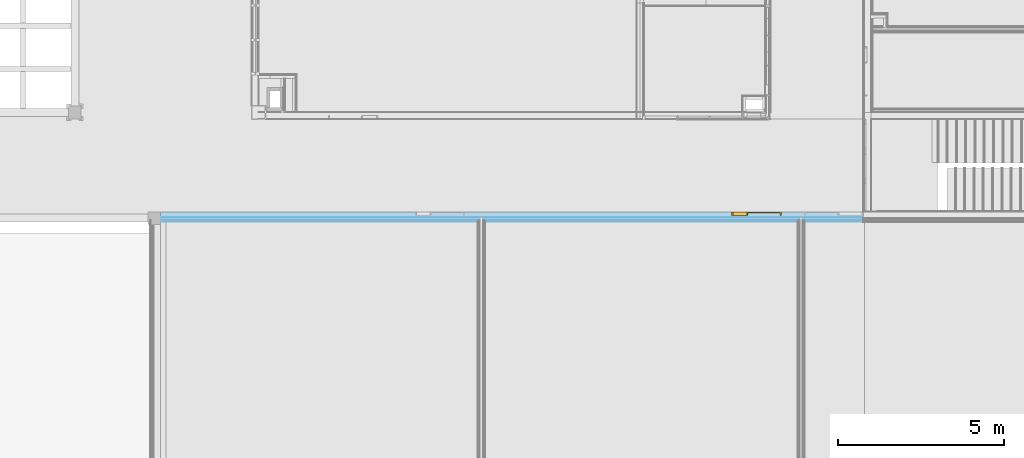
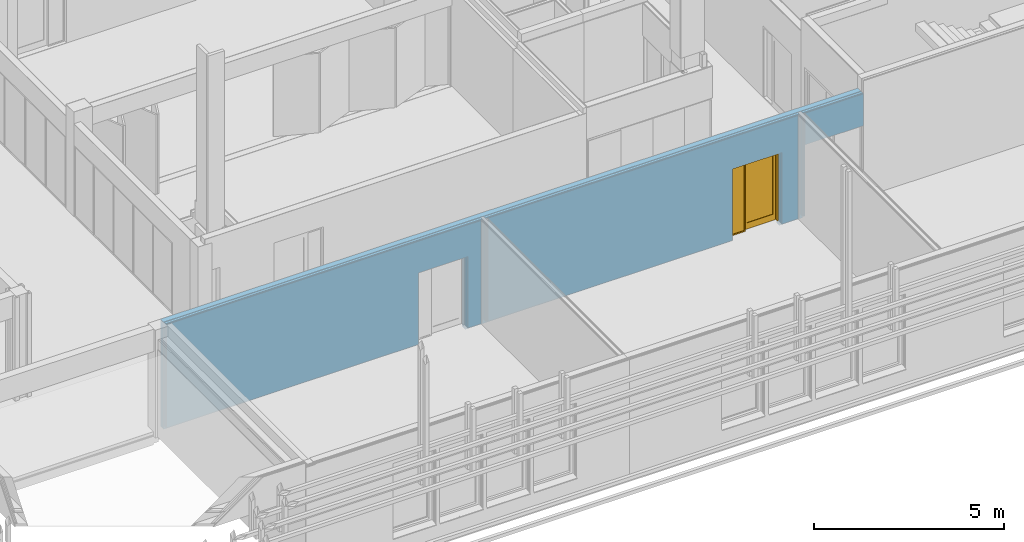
# One storey, part 64 of 139: 1 door, 3 openings, 1 element without a shape of its own, plus 7 elements that do not belong to this part.
"""IFC2X3 building model written with IfcOpenShell, lengths in millimetres."""

from ifc_helpers import new_model, entity, si_unit, converted_unit, derived_unit, money_unit, direction, frame, origin_with_axes, place, context, subcontext, project, spatial, open_shell, faceted_brep, surface_model, source, transform, mapped, material, type_object, element, fill, aggregate, save


model = new_model("IFC2X3")

# Units and contexts
model_context = context("Model", 3, precision=0.01, world=origin_with_axes(), true_north=direction((0.0, 1.0)))
body_context = subcontext(model_context, "Body", "Model", "MODEL_VIEW")
ifc_project = project(units=[si_unit("LENGTHUNIT", "METRE", prefix="MILLI"), si_unit("AREAUNIT", "SQUARE_METRE"), si_unit("VOLUMEUNIT", "CUBIC_METRE"), converted_unit("PLANEANGLEUNIT", "DEGREE", entity("IfcPlaneAngleMeasure", 0.0174532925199), si_unit("PLANEANGLEUNIT", "RADIAN"), dimensions=[0, 0, 0, 0, 0, 0, 0]), money_unit("EUR"), converted_unit("TIMEUNIT", "Year", entity("IfcTimeMeasure", 31556926.0), si_unit("TIMEUNIT", "SECOND"), dimensions=[0, 0, 1, 0, 0, 0, 0]), si_unit("MASSUNIT", "GRAM", prefix="KILO"), si_unit("THERMODYNAMICTEMPERATUREUNIT", "DEGREE_CELSIUS"), si_unit("LUMINOUSINTENSITYUNIT", "LUMEN"), si_unit("ENERGYUNIT", "JOULE", prefix="MEGA"), derived_unit("THERMALCONDUCTANCEUNIT", [(si_unit("POWERUNIT", "WATT"), 1), (si_unit("LENGTHUNIT", "METRE"), -1), (si_unit("THERMODYNAMICTEMPERATUREUNIT", "KELVIN"), -1)]), derived_unit("SPECIFICHEATCAPACITYUNIT", [(si_unit("ENERGYUNIT", "JOULE"), 1), (si_unit("MASSUNIT", "GRAM", prefix="KILO"), -1), (si_unit("THERMODYNAMICTEMPERATUREUNIT", "KELVIN"), -1)]), derived_unit("MASSDENSITYUNIT", [(si_unit("MASSUNIT", "GRAM", prefix="KILO"), 1), (si_unit("VOLUMEUNIT", "CUBIC_METRE"), -1)])], contexts=[model_context])

# Site, building, storey
site_placement = place(None, origin_with_axes())
site = spatial("IfcSite", under=ifc_project, at=site_placement, Name="Kolde pst 67a", CompositionType="ELEMENT")
building_placement = place(site_placement, origin_with_axes())
building = spatial("IfcBuilding", under=site, at=building_placement, Name="Riigigümnaasium", CompositionType="ELEMENT")
storey_placement = place(building_placement, frame((0.0, 0.0, 4600.0), z_axis=(0.0, 0.0, 1.0), x_axis=(1.0, 0.0, 0.0)))
storey = spatial("IfcBuildingStorey", under=building, at=storey_placement, Name="2. korrus", CompositionType="ELEMENT", Elevation=4600.0)

# Door
door_style = type_object("IfcDoorStyle", Name="Door with Sidelight on Side 2 25", ConstructionType="NOTDEFINED", OperationType="SINGLE_SWING_RIGHT", ParameterTakesPrecedence=False, Sizeable=False)
shared_shape = source(origin_with_axes(), body_context, "Body", "SurfaceModel", [
    faceted_brep([(-750.0, 0.0, 0.0), (-710.0, 0.0, 0.0), (-710.0, -115.0, 0.0), (-750.0, -115.0, 0.0), (-750.0, 0.0, 2260.0), (-710.0, 0.0, 2260.0), (-710.0, 0.0, 40.0), (-710.0, -115.0, 40.0), (-710.0, -115.0, 2260.0), (-750.0, -115.0, 2260.0)], [[[0, 1, 2, 3]], [[0, 4, 5, 6, 1]], [[1, 6, 7, 2]], [[3, 2, 7, 8, 9]], [[4, 0, 3, 9]], [[5, 4, 9, 8]], [[6, 5, 8, 7]]]),
    faceted_brep([(-250.0, -40.0, 0.0), (-250.0, -40.0, 2260.0), (-250.0, -115.0, 2260.0), (-250.0, -115.0, 0.0), (-262.0, -40.0, 2260.0), (-262.0, -40.0, 0.0), (-262.0, 0.0, 2260.0), (-290.0, 0.0, 2260.0), (-290.0, -115.0, 2260.0), (-290.0, -115.0, 0.0), (-290.0, -115.0, 40.0), (-290.0, 0.0, 0.0), (-262.0, 0.0, 0.0), (-290.0, 0.0, 40.0)], [[[0, 1, 2, 3]], [[4, 1, 0, 5]], [[4, 6, 7, 8, 2, 1]], [[9, 3, 2, 8, 10]], [[5, 0, 3, 9, 11, 12]], [[6, 4, 5, 12]], [[6, 12, 11, 13, 7]], [[13, 10, 8, 7]], [[11, 9, 10, 13]]]),
    faceted_brep([(-710.0, 0.0, 40.0), (-710.0, 0.0, 0.0), (-710.0, -115.0, 0.0), (-710.0, -115.0, 40.0), (-290.0, 0.0, 40.0), (-290.0, 0.0, 0.0), (-290.0, -115.0, 0.0), (-290.0, -115.0, 40.0)], [[[0, 1, 2, 3]], [[0, 4, 5, 1]], [[1, 5, 6, 2]], [[3, 2, 6, 7]], [[4, 0, 3, 7]], [[5, 4, 7, 6]]]),
    faceted_brep([(722.0, -40.0, 2260.0), (710.0, -40.0, 2260.0), (710.0, -115.0, 2260.0), (750.0, -115.0, 2260.0), (750.0, 0.0, 2260.0), (722.0, 0.0, 2260.0), (722.0, -40.0, 0.0), (710.0, -40.0, 0.0), (710.0, -115.0, 0.0), (750.0, -115.0, 0.0), (750.0, 0.0, 0.0), (722.0, 0.0, 0.0)], [[[0, 1, 2, 3, 4, 5]], [[1, 0, 6, 7]], [[1, 7, 8, 2]], [[3, 2, 8, 9]], [[4, 3, 9, 10]], [[11, 5, 4, 10]], [[0, 5, 11, 6]], [[6, 11, 10, 9, 8, 7]]]),
    faceted_brep([(-262.0, 0.0, 2272.0), (-262.0, 0.0, 2260.0), (-290.0, 0.0, 2260.0), (-710.0, 0.0, 2260.0), (-750.0, 0.0, 2260.0), (-750.0, 0.0, 2300.0), (750.0, 0.0, 2300.0), (750.0, 0.0, 2260.0), (722.0, 0.0, 2260.0), (722.0, 0.0, 2272.0), (-262.0, -40.0, 2272.0), (-262.0, -40.0, 2260.0), (710.0, -40.0, 2260.0), (710.0, -115.0, 2260.0), (-250.0, -115.0, 2260.0), (-290.0, -115.0, 2260.0), (-710.0, -115.0, 2260.0), (-750.0, -115.0, 2260.0), (-750.0, -115.0, 2300.0), (750.0, -115.0, 2300.0), (750.0, -115.0, 2260.0), (722.0, -40.0, 2260.0), (722.0, -40.0, 2272.0)], [[[0, 1, 2, 3, 4, 5, 6, 7, 8, 9]], [[1, 0, 10, 11]], [[11, 12, 13, 14, 15, 2, 1]], [[2, 15, 16, 3]], [[3, 16, 17, 4]], [[4, 17, 18, 5]], [[5, 18, 19, 6]], [[6, 19, 20, 7]], [[21, 8, 7, 20, 13, 12]], [[9, 8, 21, 22]], [[0, 9, 22, 10]], [[21, 12, 11, 10, 22]], [[13, 20, 19, 18, 17, 16, 15, 14]]]),
    faceted_brep([(722.0, 0.0, 200.0), (722.0, -40.0, 200.0), (622.0, -40.0, 200.0), (622.0, 0.0, 200.0), (722.0, 0.0, 2172.0), (722.0, -40.0, 2172.0), (622.0, -40.0, 2172.0), (622.0, 0.0, 2172.0)], [[[0, 1, 2, 3]], [[4, 5, 1, 0]], [[1, 5, 6, 2]], [[3, 2, 6, 7]], [[0, 3, 7, 4]], [[7, 6, 5, 4]]]),
    faceted_brep([(-262.0, 0.0, 200.0), (-262.0, -40.0, 200.0), (-262.0, -40.0, 2172.0), (-262.0, 0.0, 2172.0), (-162.0, 0.0, 200.0), (-162.0, -40.0, 200.0), (-162.0, -40.0, 2172.0), (-162.0, 0.0, 2172.0)], [[[0, 1, 2, 3]], [[4, 5, 1, 0]], [[1, 5, 6, 2]], [[3, 2, 6, 7]], [[0, 3, 7, 4]], [[7, 6, 5, 4]]]),
    faceted_brep([(722.0, 0.0, 0.0), (722.0, -40.0, 0.0), (-262.0, -40.0, 0.0), (-262.0, 0.0, 0.0), (722.0, 0.0, 200.0), (722.0, -40.0, 200.0), (622.0, -40.0, 200.0), (-162.0, -40.0, 200.0), (-262.0, -40.0, 200.0), (-262.0, 0.0, 200.0), (-162.0, 0.0, 200.0), (622.0, 0.0, 200.0)], [[[0, 1, 2, 3]], [[4, 5, 1, 0]], [[1, 5, 6, 7, 8, 2]], [[3, 2, 8, 9]], [[0, 3, 9, 10, 11, 4]], [[11, 6, 5, 4]], [[10, 7, 6, 11]], [[9, 8, 7, 10]]]),
    faceted_brep([(722.0, 0.0, 2272.0), (722.0, -40.0, 2272.0), (722.0, -40.0, 2172.0), (722.0, 0.0, 2172.0), (-262.0, 0.0, 2272.0), (-262.0, -40.0, 2272.0), (-262.0, -40.0, 2172.0), (-162.0, -40.0, 2172.0), (622.0, -40.0, 2172.0), (622.0, 0.0, 2172.0), (-162.0, 0.0, 2172.0), (-262.0, 0.0, 2172.0)], [[[0, 1, 2, 3]], [[4, 5, 1, 0]], [[1, 5, 6, 7, 8, 2]], [[3, 2, 8, 9]], [[0, 3, 9, 10, 11, 4]], [[11, 6, 5, 4]], [[10, 7, 6, 11]], [[9, 8, 7, 10]]]),
    surface_model("IfcShellBasedSurfaceModel", [(622.0, -14.0, 200.0), (-162.0, -14.0, 200.0), (-162.0, -14.0, 2172.0), (622.0, -14.0, 2172.0)], [open_shell([[[0, 1, 2, 3]]])]),
    surface_model("IfcShellBasedSurfaceModel", [(622.0, -26.0, 200.0), (622.0, -26.0, 2172.0), (-162.0, -26.0, 2172.0), (-162.0, -26.0, 200.0)], [open_shell([[[0, 1, 2, 3]]])]),
    surface_model("IfcShellBasedSurfaceModel", [(-710.0, -91.0, 40.0), (-710.0, -91.0, 2260.0), (-290.0, -91.0, 2260.0), (-290.0, -91.0, 40.0)], [open_shell([[[0, 1, 2, 3]]])]),
    surface_model("IfcShellBasedSurfaceModel", [(-710.0, -103.0, 40.0), (-290.0, -103.0, 40.0), (-290.0, -103.0, 2260.0), (-710.0, -103.0, 2260.0)], [open_shell([[[0, 1, 2, 3]]])]),
])
wall_placement = place(storey_placement, frame((55369.9826662, 7900.0, -130.0), z_axis=(0.0, 0.0, 1.0), x_axis=(1.0, 0.0, 0.0)))
opening_3_placement = place(wall_placement, frame((17990.0166618, 0.0, 130.0), z_axis=(0.0, 0.0, 1.0), x_axis=(1.0, 0.0, 0.0)))
door_placement = place(opening_3_placement, frame((-750.0, 0.0, 0.0), z_axis=(0.0, 0.0, 1.0), x_axis=(1.0, 0.0, 0.0)))
door = element("IfcDoor", 1, at=door_placement, inside=storey, type_object=door_style, Name="Siseuks", ObjectType="DOOR", OverallHeight=2300.0, OverallWidth=1500.0, context=body_context, shape_type="MappedRepresentation", body=[
    mapped(shared_shape, transform((750.0, 0.0, 0.0))),
])

# Wall, openings
wall_type = type_object("IfcWallType", Name="SS-CLT-16/1_vill75+krohv 52 dB 300", PredefinedType="NOTDEFINED")
wall = element("IfcWall", 2, at=wall_placement, inside=storey, type_object=wall_type, Name="Sisesein")
opening_1_placement = place(wall_placement, frame((8430.01666176, 0.0, 130.0), z_axis=(0.0, 0.0, 1.0), x_axis=(1.0, 0.0, 0.0)))
element("IfcOpeningElement", 3, at=opening_1_placement, cuts=wall, Name="Siseuks", context=body_context, shape_type="Brep", body=[
    faceted_brep([(750.0, -300.0, 2300.0), (750.0, -300.0, 0.0), (750.0, 600.0, 0.0), (750.0, 600.0, 2300.0), (-750.0, -300.0, 2300.0), (-750.0, -300.0, 0.0), (-750.0, 600.0, 0.0), (-750.0, 600.0, 2300.0)], [[[0, 1, 2, 3]], [[0, 4, 5, 1]], [[1, 5, 6, 2]], [[3, 2, 6, 7]], [[4, 0, 3, 7]], [[5, 4, 7, 6]]]),
])
opening_2_placement = place(wall_placement, frame((20330.020805, 0.0, 130.0), z_axis=(0.0, 0.0, 1.0), x_axis=(1.0, 0.0, 0.0)))
element("IfcOpeningElement", 4, at=opening_2_placement, cuts=wall, Name="Siseuks", context=body_context, shape_type="Brep", body=[
    faceted_brep([(-890.0, 600.0, 2300.0), (-890.0, 600.0, 0.0), (-890.0, -300.0, 0.0), (-890.0, -300.0, 2300.0), (890.0, 600.0, 2300.0), (890.0, 600.0, 0.0), (890.0, -300.0, 0.0), (890.0, -300.0, 2300.0)], [[[0, 1, 2, 3]], [[0, 4, 5, 1]], [[1, 5, 6, 2]], [[3, 2, 6, 7]], [[4, 0, 3, 7]], [[5, 4, 7, 6]]]),
])
opening_3 = element("IfcOpeningElement", 5, at=opening_3_placement, cuts=wall, Name="Siseuks", context=body_context, shape_type="Brep", body=[
    faceted_brep([(750.0, -300.0, 2300.0), (750.0, -300.0, 0.0), (750.0, 600.0, 0.0), (750.0, 600.0, 2300.0), (-750.0, -300.0, 2300.0), (-750.0, -300.0, 0.0), (-750.0, 600.0, 0.0), (-750.0, 600.0, 2300.0)], [[[0, 1, 2, 3]], [[0, 4, 5, 1]], [[1, 5, 6, 2]], [[3, 2, 6, 7]], [[4, 0, 3, 7]], [[5, 4, 7, 6]]]),
])

fill(opening_3, door)

# Building element part
ifc_material_1 = material(Name="_KANDETARIND - CLT ristkihtliimpuit vastavalt EK osale, CLT paigaldusvuugid teibitakse ROTHOBLAAS teibiga")
building_element_part_1_placement = place(wall_placement, origin_with_axes())
building_element_part_1 = element("IfcBuildingElementPart", 6, at=building_element_part_1_placement, material=ifc_material_1, Name="_KANDETARIND - CLT ristkihtliimpuit vastavalt EK osale, CLT paigaldusvuugid teibitakse ROTHOBLAAS teibiga", context=body_context, shape_type="Brep", body=[
    faceted_brep([(17240.0166618, 0.0, 2430.0), (17240.0166618, 0.0, 130.0), (17240.0166618, 0.0, 0.0), (9180.01666176, 0.0, 0.0), (9180.01666176, 0.0, 130.0), (9180.01666176, 0.0, 2430.0), (7680.01666176, 0.0, 2430.0), (7680.01666176, 0.0, 130.0), (7680.01666176, 0.0, 0.0), (0.0, 0.0, 0.0), (0.0, 0.0, 3450.0), (21220.0193969, 0.0, 3450.0), (21220.020805, 0.0, 2430.0), (19440.020805, 0.0, 2430.0), (19440.020805, 0.0, 130.0), (19440.020805, 0.0, 0.0), (18740.0166618, 0.0, 0.0), (18740.0166618, 0.0, 130.0), (18740.0166618, 0.0, 2430.0), (17240.0166618, -160.0, 2430.0), (17240.0166618, -160.0, 130.0), (17240.0166618, -160.0, 0.0), (9180.01666176, -160.0, 0.0), (9180.01666176, -160.0, 130.0), (9180.01666176, -160.0, 2430.0), (7680.01666176, -160.0, 2430.0), (7680.01666176, -160.0, 130.0), (7680.01666176, -160.0, 0.0), (0.0, -160.0, 0.0), (-0.00089815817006, -160.0, 3450.0), (21220.0193969, -160.0, 3450.0), (21220.020805, -160.0, 2430.0), (19440.020805, -160.0, 2430.0), (19440.020805, -160.0, 130.0), (19440.020805, -160.0, 0.0), (18740.0166618, -160.0, 0.0), (18740.0166618, -160.0, 130.0), (18740.0166618, -160.0, 2430.0)], [[[0, 1, 2, 3, 4, 5, 6, 7, 8, 9, 10, 11, 12, 13, 14, 15, 16, 17, 18]], [[1, 0, 19, 20]], [[1, 20, 21, 2]], [[22, 3, 2, 21]], [[3, 22, 23, 4]], [[23, 24, 5, 4]], [[24, 25, 6, 5]], [[25, 26, 7, 6]], [[27, 8, 7, 26]], [[27, 28, 9, 8]], [[9, 28, 29, 10]], [[10, 29, 30, 11]], [[12, 11, 30, 31]], [[12, 31, 32, 13]], [[13, 32, 33, 14]], [[33, 34, 15, 14]], [[16, 15, 34, 35]], [[36, 17, 16, 35]], [[18, 17, 36, 37]], [[0, 18, 37, 19]], [[37, 36, 35, 34, 33, 32, 31, 30, 29, 28, 27, 26, 25, 24, 23, 22, 21, 20, 19]]]),
])

ifc_material_2 = material(Name="_ÕHKVAHE")
building_element_part_2_placement = place(wall_placement, origin_with_axes())
building_element_part_2 = element("IfcBuildingElementPart", 7, at=building_element_part_2_placement, material=ifc_material_2, Name="_ÕHKVAHE", context=body_context, shape_type="Brep", body=[
    faceted_brep([(21220.020805, -175.0, 2430.0), (21220.020805, -160.0, 2430.0), (21220.0193969, -160.0, 3450.0), (21220.0193969, -175.0, 3450.0), (19440.020805, -160.0, 2430.0), (19440.020805, -175.0, 2430.0), (19440.020805, -160.0, 130.0), (19440.020805, -160.0, 127.0), (19390.0166618, -160.0, 127.0), (19390.0166618, -160.0, 3450.0), (19390.0166618, -175.0, 3450.0), (19390.0166618, -175.0, 127.0), (19440.020805, -175.0, 127.0), (19440.020805, -175.0, 130.0)], [[[0, 1, 2, 3]], [[4, 1, 0, 5]], [[4, 6, 7, 8, 9, 2, 1]], [[2, 9, 10, 3]], [[5, 0, 3, 10, 11, 12, 13]], [[6, 4, 5, 13]], [[6, 13, 12, 7]], [[12, 11, 8, 7]], [[9, 8, 11, 10]]]),
    faceted_brep([(17240.0166618, -160.0, 2430.0), (17240.0166618, -160.0, 130.0), (17240.0166618, -160.0, 127.0), (9740.01666176, -160.0, 127.0), (9740.01666176, -160.0, 3450.0), (19290.0166618, -160.0, 3450.0), (19290.0166618, -160.0, 127.0), (18740.0166618, -160.0, 127.0), (18740.0166618, -160.0, 130.0), (18740.0166618, -160.0, 2430.0), (17240.0166618, -175.0, 2430.0), (17240.0166618, -175.0, 130.0), (17240.0166618, -175.0, 127.0), (9740.01666176, -175.0, 127.0), (9740.01666176, -175.0, 3450.0), (19290.0166618, -175.0, 3450.0), (19290.0166618, -175.0, 127.0), (18740.0166618, -175.0, 127.0), (18740.0166618, -175.0, 130.0), (18740.0166618, -175.0, 2430.0)], [[[0, 1, 2, 3, 4, 5, 6, 7, 8, 9]], [[1, 0, 10, 11]], [[1, 11, 12, 2]], [[12, 13, 3, 2]], [[4, 3, 13, 14]], [[5, 4, 14, 15]], [[15, 16, 6, 5]], [[7, 6, 16, 17]], [[18, 8, 7, 17]], [[9, 8, 18, 19]], [[0, 9, 19, 10]], [[19, 18, 17, 16, 15, 14, 13, 12, 11, 10]]]),
    faceted_brep([(7680.01666176, -160.0, 2430.0), (7680.01666176, -160.0, 130.0), (7680.01666176, -160.0, 127.0), (0.0, -160.0, 127.0), (-0.00089815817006, -160.0, 3450.0), (9640.01666176, -160.0, 3450.0), (9640.01666176, -160.0, 127.0), (9180.01666176, -160.0, 127.0), (9180.01666176, -160.0, 130.0), (9180.01666176, -160.0, 2430.0), (7680.01666176, -175.0, 2430.0), (7680.01666176, -175.0, 130.0), (7680.01666176, -175.0, 127.0), (0.0, -175.0, 127.0), (-0.00089815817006, -175.0, 3450.0), (9640.01666176, -175.0, 3450.0), (9640.01666176, -175.0, 127.0), (9180.01666176, -175.0, 127.0), (9180.01666176, -175.0, 130.0), (9180.01666176, -175.0, 2430.0)], [[[0, 1, 2, 3, 4, 5, 6, 7, 8, 9]], [[1, 0, 10, 11]], [[1, 11, 12, 2]], [[12, 13, 3, 2]], [[4, 3, 13, 14]], [[5, 4, 14, 15]], [[15, 16, 6, 5]], [[7, 6, 16, 17]], [[18, 8, 7, 17]], [[9, 8, 18, 19]], [[0, 9, 19, 10]], [[19, 18, 17, 16, 15, 14, 13, 12, 11, 10]]]),
])

ifc_material_3 = material(Name="_KARKASS - metallkarkass CW 75/50/06 ja UW 75/40/06, samm 600, vahel mineraalvill, helineeldetegur αw = 1.0,  ISOVER ACOUSTIC 75mm või samaväärne")
building_element_part_3_placement = place(wall_placement, origin_with_axes())
building_element_part_3 = element("IfcBuildingElementPart", 8, at=building_element_part_3_placement, material=ifc_material_3, Name="_KARKASS - metallkarkass CW 75/50/06 ja UW 75/40/06, samm 600, vahel mineraalvill, helineeldetegur αw = 1.0,  ISOVER ACOUSTIC 75mm või samaväärne", context=body_context, shape_type="Brep", body=[
    faceted_brep([(21220.020805, -250.0, 2430.0), (21220.020805, -175.0, 2430.0), (21220.0193969, -175.0, 3450.0), (21220.0193969, -250.0, 3450.0), (19440.020805, -175.0, 2430.0), (19440.020805, -250.0, 2430.0), (19440.020805, -175.0, 130.0), (19440.020805, -175.0, 127.0), (19390.0166618, -175.0, 127.0), (19390.0166618, -175.0, 3450.0), (19390.0166618, -250.0, 3450.0), (19390.0166618, -250.0, 127.0), (19440.020805, -250.0, 127.0), (19440.020805, -250.0, 130.0)], [[[0, 1, 2, 3]], [[4, 1, 0, 5]], [[4, 6, 7, 8, 9, 2, 1]], [[2, 9, 10, 3]], [[5, 0, 3, 10, 11, 12, 13]], [[6, 4, 5, 13]], [[6, 13, 12, 7]], [[12, 11, 8, 7]], [[9, 8, 11, 10]]]),
    faceted_brep([(17240.0166618, -175.0, 2430.0), (17240.0166618, -175.0, 130.0), (17240.0166618, -175.0, 127.0), (9740.01666176, -175.0, 127.0), (9740.01666176, -175.0, 3450.0), (19290.0166618, -175.0, 3450.0), (19290.0166618, -175.0, 127.0), (18740.0166618, -175.0, 127.0), (18740.0166618, -175.0, 130.0), (18740.0166618, -175.0, 2430.0), (17240.0166618, -250.0, 2430.0), (17240.0166618, -250.0, 130.0), (17240.0166618, -250.0, 127.0), (9740.01666176, -250.0, 127.0), (9740.01666176, -250.0, 3450.0), (19290.0166618, -250.0, 3450.0), (19290.0166618, -250.0, 127.0), (18740.0166618, -250.0, 127.0), (18740.0166618, -250.0, 130.0), (18740.0166618, -250.0, 2430.0)], [[[0, 1, 2, 3, 4, 5, 6, 7, 8, 9]], [[1, 0, 10, 11]], [[1, 11, 12, 2]], [[12, 13, 3, 2]], [[4, 3, 13, 14]], [[5, 4, 14, 15]], [[15, 16, 6, 5]], [[7, 6, 16, 17]], [[18, 8, 7, 17]], [[9, 8, 18, 19]], [[0, 9, 19, 10]], [[19, 18, 17, 16, 15, 14, 13, 12, 11, 10]]]),
    faceted_brep([(7680.01666176, -175.0, 2430.0), (7680.01666176, -175.0, 130.0), (7680.01666176, -175.0, 127.0), (0.0, -175.0, 127.0), (-0.00089815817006, -175.0, 3450.0), (9640.01666176, -175.0, 3450.0), (9640.01666176, -175.0, 127.0), (9180.01666176, -175.0, 127.0), (9180.01666176, -175.0, 130.0), (9180.01666176, -175.0, 2430.0), (7680.01666176, -250.0, 2430.0), (7680.01666176, -250.0, 130.0), (7680.01666176, -250.0, 127.0), (0.0, -250.0, 127.0), (-0.00089815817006, -250.0, 3450.0), (9640.01666176, -250.0, 3450.0), (9640.01666176, -250.0, 127.0), (9180.01666176, -250.0, 127.0), (9180.01666176, -250.0, 130.0), (9180.01666176, -250.0, 2430.0)], [[[0, 1, 2, 3, 4, 5, 6, 7, 8, 9]], [[1, 0, 10, 11]], [[1, 11, 12, 2]], [[12, 13, 3, 2]], [[4, 3, 13, 14]], [[5, 4, 14, 15]], [[15, 16, 6, 5]], [[7, 6, 16, 17]], [[18, 8, 7, 17]], [[9, 8, 18, 19]], [[0, 9, 19, 10]], [[19, 18, 17, 16, 15, 14, 13, 12, 11, 10]]]),
])

ifc_material_4 = material(Name="_PLAATMATERJAL - OSB3 plaat")
building_element_part_4_placement = place(wall_placement, origin_with_axes())
building_element_part_4 = element("IfcBuildingElementPart", 9, at=building_element_part_4_placement, material=ifc_material_4, Name="_PLAATMATERJAL - OSB3 plaat", context=body_context, shape_type="Brep", body=[
    faceted_brep([(21220.020805, -260.0, 2430.0), (21220.020805, -250.0, 2430.0), (21220.0193969, -250.0, 3450.0), (21220.0193969, -260.0, 3450.0), (19440.020805, -250.0, 2430.0), (19440.020805, -260.0, 2430.0), (19440.020805, -250.0, 130.0), (19440.020805, -250.0, 127.0), (19390.0166618, -250.0, 127.0), (19390.0166618, -250.0, 3450.0), (19390.0166618, -260.0, 3450.0), (19390.0166618, -260.0, 127.0), (19440.020805, -260.0, 127.0), (19440.020805, -260.0, 130.0)], [[[0, 1, 2, 3]], [[4, 1, 0, 5]], [[4, 6, 7, 8, 9, 2, 1]], [[2, 9, 10, 3]], [[5, 0, 3, 10, 11, 12, 13]], [[6, 4, 5, 13]], [[6, 13, 12, 7]], [[12, 11, 8, 7]], [[9, 8, 11, 10]]]),
    faceted_brep([(17240.0166618, -250.0, 2430.0), (17240.0166618, -250.0, 130.0), (17240.0166618, -250.0, 127.0), (9740.01666176, -250.0, 127.0), (9740.01666176, -250.0, 3450.0), (19290.0166618, -250.0, 3450.0), (19290.0166618, -250.0, 127.0), (18740.0166618, -250.0, 127.0), (18740.0166618, -250.0, 130.0), (18740.0166618, -250.0, 2430.0), (17240.0166618, -260.0, 2430.0), (17240.0166618, -260.0, 130.0), (17240.0166618, -260.0, 127.0), (9740.01666176, -260.0, 127.0), (9740.01666176, -260.0, 3450.0), (19290.0166618, -260.0, 3450.0), (19290.0166618, -260.0, 127.0), (18740.0166618, -260.0, 127.0), (18740.0166618, -260.0, 130.0), (18740.0166618, -260.0, 2430.0)], [[[0, 1, 2, 3, 4, 5, 6, 7, 8, 9]], [[1, 0, 10, 11]], [[1, 11, 12, 2]], [[12, 13, 3, 2]], [[4, 3, 13, 14]], [[5, 4, 14, 15]], [[15, 16, 6, 5]], [[7, 6, 16, 17]], [[18, 8, 7, 17]], [[9, 8, 18, 19]], [[0, 9, 19, 10]], [[19, 18, 17, 16, 15, 14, 13, 12, 11, 10]]]),
    faceted_brep([(7680.01666176, -250.0, 2430.0), (7680.01666176, -250.0, 130.0), (7680.01666176, -250.0, 127.0), (0.0, -250.0, 127.0), (-0.00089815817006, -250.0, 3450.0), (9640.01666176, -250.0, 3450.0), (9640.01666176, -250.0, 127.0), (9180.01666176, -250.0, 127.0), (9180.01666176, -250.0, 130.0), (9180.01666176, -250.0, 2430.0), (7680.01666176, -260.0, 2430.0), (7680.01666176, -260.0, 130.0), (7680.01666176, -260.0, 127.0), (0.0, -260.0, 127.0), (-0.00089815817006, -260.0, 3450.0), (9640.01666176, -260.0, 3450.0), (9640.01666176, -260.0, 127.0), (9180.01666176, -260.0, 127.0), (9180.01666176, -260.0, 130.0), (9180.01666176, -260.0, 2430.0)], [[[0, 1, 2, 3, 4, 5, 6, 7, 8, 9]], [[1, 0, 10, 11]], [[1, 11, 12, 2]], [[12, 13, 3, 2]], [[4, 3, 13, 14]], [[5, 4, 14, 15]], [[15, 16, 6, 5]], [[7, 6, 16, 17]], [[18, 8, 7, 17]], [[9, 8, 18, 19]], [[0, 9, 19, 10]], [[19, 18, 17, 16, 15, 14, 13, 12, 11, 10]]]),
])

ifc_material_5 = material(Name="_PLAATMATERJAL - tuletõkkekipsplaat, Knauf Red GKF või samaväärne")
building_element_part_5_placement = place(wall_placement, origin_with_axes())
building_element_part_5 = element("IfcBuildingElementPart", 10, at=building_element_part_5_placement, material=ifc_material_5, Name="_PLAATMATERJAL - tuletõkkekipsplaat, Knauf Red GKF või samaväärne", context=body_context, shape_type="Brep", body=[
    faceted_brep([(21220.020805, -275.0, 2430.0), (21220.020805, -260.0, 2430.0), (21220.0193969, -260.0, 3450.0), (21220.0193969, -275.0, 3450.0), (19440.020805, -260.0, 2430.0), (19440.020805, -275.0, 2430.0), (19440.020805, -260.0, 130.0), (19440.020805, -260.0, 127.0), (19390.0166618, -260.0, 127.0), (19390.0166618, -260.0, 3450.0), (19390.0166618, -275.0, 3450.0), (19390.0166618, -275.0, 127.0), (19440.020805, -275.0, 127.0), (19440.020805, -275.0, 130.0)], [[[0, 1, 2, 3]], [[4, 1, 0, 5]], [[4, 6, 7, 8, 9, 2, 1]], [[2, 9, 10, 3]], [[5, 0, 3, 10, 11, 12, 13]], [[6, 4, 5, 13]], [[6, 13, 12, 7]], [[12, 11, 8, 7]], [[9, 8, 11, 10]]]),
    faceted_brep([(17240.0166618, -260.0, 2430.0), (17240.0166618, -260.0, 130.0), (17240.0166618, -260.0, 127.0), (9740.01666176, -260.0, 127.0), (9740.01666176, -260.0, 3450.0), (19290.0166618, -260.0, 3450.0), (19290.0166618, -260.0, 127.0), (18740.0166618, -260.0, 127.0), (18740.0166618, -260.0, 130.0), (18740.0166618, -260.0, 2430.0), (17240.0166618, -275.0, 2430.0), (17240.0166618, -275.0, 130.0), (17240.0166618, -275.0, 127.0), (9740.01666176, -275.0, 127.0), (9740.01666176, -275.0, 3450.0), (19290.0166618, -275.0, 3450.0), (19290.0166618, -275.0, 127.0), (18740.0166618, -275.0, 127.0), (18740.0166618, -275.0, 130.0), (18740.0166618, -275.0, 2430.0)], [[[0, 1, 2, 3, 4, 5, 6, 7, 8, 9]], [[1, 0, 10, 11]], [[1, 11, 12, 2]], [[12, 13, 3, 2]], [[4, 3, 13, 14]], [[5, 4, 14, 15]], [[15, 16, 6, 5]], [[7, 6, 16, 17]], [[18, 8, 7, 17]], [[9, 8, 18, 19]], [[0, 9, 19, 10]], [[19, 18, 17, 16, 15, 14, 13, 12, 11, 10]]]),
    faceted_brep([(7680.01666176, -260.0, 2430.0), (7680.01666176, -260.0, 130.0), (7680.01666176, -260.0, 127.0), (0.0, -260.0, 127.0), (-0.00089815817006, -260.0, 3450.0), (9640.01666176, -260.0, 3450.0), (9640.01666176, -260.0, 127.0), (9180.01666176, -260.0, 127.0), (9180.01666176, -260.0, 130.0), (9180.01666176, -260.0, 2430.0), (7680.01666176, -275.0, 2430.0), (7680.01666176, -275.0, 130.0), (7680.01666176, -275.0, 127.0), (0.0, -275.0, 127.0), (-0.00089815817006, -275.0, 3450.0), (9640.01666176, -275.0, 3450.0), (9640.01666176, -275.0, 127.0), (9180.01666176, -275.0, 127.0), (9180.01666176, -275.0, 130.0), (9180.01666176, -275.0, 2430.0)], [[[0, 1, 2, 3, 4, 5, 6, 7, 8, 9]], [[1, 0, 10, 11]], [[1, 11, 12, 2]], [[12, 13, 3, 2]], [[4, 3, 13, 14]], [[5, 4, 14, 15]], [[15, 16, 6, 5]], [[7, 6, 16, 17]], [[18, 8, 7, 17]], [[9, 8, 18, 19]], [[0, 9, 19, 10]], [[19, 18, 17, 16, 15, 14, 13, 12, 11, 10]]]),
])

building_element_part_6_placement = place(wall_placement, origin_with_axes())
building_element_part_6 = element("IfcBuildingElementPart", 11, at=building_element_part_6_placement, material=ifc_material_5, Name="_PLAATMATERJAL - tuletõkkekipsplaat, Knauf Red GKF või samaväärne", context=body_context, shape_type="Brep", body=[
    faceted_brep([(21220.020805, -290.0, 2430.0), (21220.020805, -275.0, 2430.0), (21220.0193969, -275.0, 3450.0), (21220.0193969, -290.0, 3450.0), (19440.020805, -275.0, 2430.0), (19440.020805, -290.0, 2430.0), (19440.020805, -275.0, 130.0), (19440.020805, -275.0, 127.0), (19430.0166618, -275.0, 127.0), (19430.0166618, -275.0, 3450.0), (19430.0166618, -290.0, 3450.0), (19430.0166618, -290.0, 127.0), (19440.020805, -290.0, 127.0), (19440.020805, -290.0, 130.0)], [[[0, 1, 2, 3]], [[4, 1, 0, 5]], [[4, 6, 7, 8, 9, 2, 1]], [[2, 9, 10, 3]], [[5, 0, 3, 10, 11, 12, 13]], [[6, 4, 5, 13]], [[6, 13, 12, 7]], [[12, 11, 8, 7]], [[9, 8, 11, 10]]]),
    faceted_brep([(17240.0166618, -275.0, 2430.0), (17240.0166618, -275.0, 130.0), (17240.0166618, -275.0, 127.0), (9780.01666176, -275.0, 127.0), (9780.01666176, -275.0, 3450.0), (19250.0166618, -275.0, 3450.0), (19250.0166618, -275.0, 127.0), (18740.0166618, -275.0, 127.0), (18740.0166618, -275.0, 130.0), (18740.0166618, -275.0, 2430.0), (17240.0166618, -290.0, 2430.0), (17240.0166618, -290.0, 130.0), (17240.0166618, -290.0, 127.0), (9780.01666176, -290.0, 127.0), (9780.01666176, -290.0, 3450.0), (19250.0166618, -290.0, 3450.0), (19250.0166618, -290.0, 127.0), (18740.0166618, -290.0, 127.0), (18740.0166618, -290.0, 130.0), (18740.0166618, -290.0, 2430.0)], [[[0, 1, 2, 3, 4, 5, 6, 7, 8, 9]], [[1, 0, 10, 11]], [[1, 11, 12, 2]], [[12, 13, 3, 2]], [[4, 3, 13, 14]], [[5, 4, 14, 15]], [[15, 16, 6, 5]], [[7, 6, 16, 17]], [[18, 8, 7, 17]], [[9, 8, 18, 19]], [[0, 9, 19, 10]], [[19, 18, 17, 16, 15, 14, 13, 12, 11, 10]]]),
    faceted_brep([(7680.01666176, -275.0, 2430.0), (7680.01666176, -275.0, 130.0), (7680.01666176, -275.0, 127.0), (0.0, -275.0, 127.0), (-0.00089815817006, -275.0, 3450.0), (9600.01666176, -275.0, 3450.0), (9600.01666176, -275.0, 127.0), (9180.01666176, -275.0, 127.0), (9180.01666176, -275.0, 130.0), (9180.01666176, -275.0, 2430.0), (7680.01666176, -290.0, 2430.0), (7680.01666176, -290.0, 130.0), (7680.01666176, -290.000000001, 127.0), (-0.00133188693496, -290.000000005, 127.0), (-0.00089815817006, -290.0, 3450.0), (9600.01666176, -290.0, 3450.0), (9600.01666176, -290.0, 127.0), (9180.01666176, -290.0, 127.0), (9180.01666176, -290.0, 130.0), (9180.01666176, -290.0, 2430.0)], [[[0, 1, 2, 3, 4, 5, 6, 7, 8, 9]], [[1, 0, 10, 11]], [[1, 11, 12, 2]], [[13, 3, 2, 12]], [[4, 3, 13, 14]], [[5, 4, 14, 15]], [[15, 16, 6, 5]], [[7, 6, 16, 17]], [[18, 8, 7, 17]], [[9, 8, 18, 19]], [[0, 9, 19, 10]], [[19, 18, 17, 16, 15, 14, 13, 12, 11, 10]]]),
])

ifc_material_6 = material(Name="_VIIMISTLUSKIHT - viimistlus vastavalt SA osale")
building_element_part_7_placement = place(wall_placement, origin_with_axes())
building_element_part_7 = element("IfcBuildingElementPart", 12, at=building_element_part_7_placement, material=ifc_material_6, Name="_VIIMISTLUSKIHT - viimistlus vastavalt SA osale", context=body_context, shape_type="Brep", body=[
    faceted_brep([(21220.020805, -300.0, 2430.0), (21220.020805, -290.0, 2430.0), (21220.0193969, -290.0, 3450.0), (21220.0193969, -300.0, 3450.0), (19445.0166618, -290.0, 2430.0), (19445.0166618, -300.0, 2430.0), (19445.0166618, -290.0, 3450.0), (19445.0166618, -300.0, 3450.0)], [[[0, 1, 2, 3]], [[4, 1, 0, 5]], [[1, 4, 6, 2]], [[2, 6, 7, 3]], [[5, 0, 3, 7]], [[4, 5, 7, 6]]]),
    faceted_brep([(17240.0166618, -290.0, 2430.0), (17240.0166618, -290.0, 130.0), (9795.01666176, -290.0, 130.0), (9795.01666176, -290.0, 3450.0), (19235.0166618, -290.0, 3450.0), (19235.0166618, -290.0, 130.0), (18740.0166618, -290.0, 130.0), (18740.0166618, -290.0, 2430.0), (17240.0166618, -300.0, 2430.0), (17240.0166618, -300.0, 130.0), (9795.01666176, -300.0, 130.0), (9795.01666176, -300.0, 3450.0), (19235.0166618, -300.0, 3450.0), (19235.0166618, -300.0, 130.0), (18740.0166618, -300.0, 130.0), (18740.0166618, -300.0, 2430.0)], [[[0, 1, 2, 3, 4, 5, 6, 7]], [[1, 0, 8, 9]], [[1, 9, 10, 2]], [[3, 2, 10, 11]], [[4, 3, 11, 12]], [[12, 13, 5, 4]], [[14, 6, 5, 13]], [[7, 6, 14, 15]], [[0, 7, 15, 8]], [[15, 14, 13, 12, 11, 10, 9, 8]]]),
    faceted_brep([(7680.01666176, -290.0, 2430.0), (7680.01666176, -290.000000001, 130.0), (-0.00133188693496, -290.000000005, 130.0), (-0.00089815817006, -290.0, 3450.0), (9585.01666176, -290.0, 3450.0), (9585.01666176, -290.0, 130.0), (9180.01666176, -290.0, 130.0), (9180.01666176, -290.0, 2430.0), (7680.01666176, -300.0, 2430.0), (7680.01666176, -300.000000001, 130.0), (-0.00129245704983, -300.000000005, 130.0), (-0.00089815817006, -300.0, 3450.0), (9585.01666176, -300.0, 3450.0), (9585.01666176, -300.0, 130.0), (9180.01666176, -300.0, 130.0), (9180.01666176, -300.0, 2430.0)], [[[0, 1, 2, 3, 4, 5, 6, 7]], [[1, 0, 8, 9]], [[1, 9, 10, 2]], [[3, 2, 10, 11]], [[4, 3, 11, 12]], [[12, 13, 5, 4]], [[14, 6, 5, 13]], [[7, 6, 14, 15]], [[0, 7, 15, 8]], [[15, 14, 13, 12, 11, 10, 9, 8]]]),
])

aggregate(wall, [building_element_part_1, building_element_part_2, building_element_part_3, building_element_part_4, building_element_part_5, building_element_part_6, building_element_part_7])

save(model, "model.ifc")
